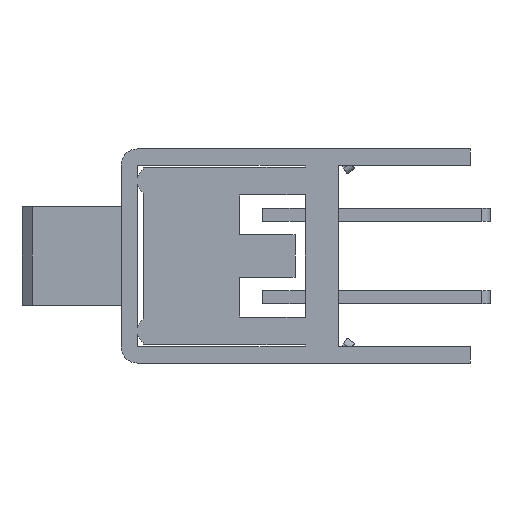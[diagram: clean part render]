
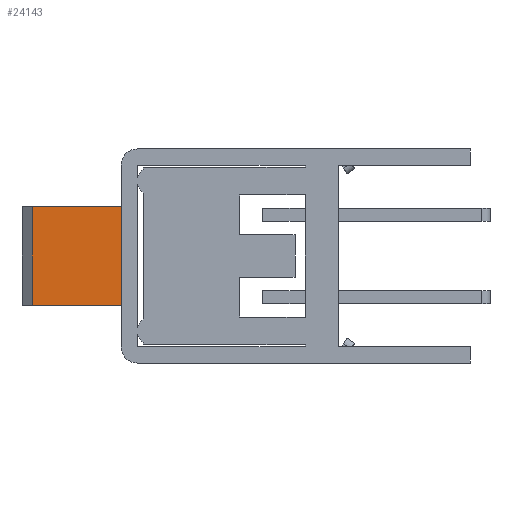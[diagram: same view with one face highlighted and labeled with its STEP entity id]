
A CAD part, left-side view. The second image highlights one B-rep face of the part: STEP entity #24143.
In plain terms, the highlighted planar face has unit normal (-1, 0, 0).
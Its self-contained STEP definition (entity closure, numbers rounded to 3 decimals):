
#23920=DIRECTION('',(0.,1.,0.));
#23921=VECTOR('',#23920,3.2);
#23922=CARTESIAN_POINT('',(-5.65,6.1,-1.5));
#23923=LINE('',#23922,#23921);
#23924=DIRECTION('',(0.,0.,-1.));
#23925=VECTOR('',#23924,3.);
#23926=CARTESIAN_POINT('',(-5.65,6.1,1.5));
#23927=LINE('',#23926,#23925);
#23980=DIRECTION('',(0.,1.,0.));
#23981=VECTOR('',#23980,3.2);
#23982=CARTESIAN_POINT('',(-5.65,6.1,1.5));
#23983=LINE('',#23982,#23981);
#24028=DIRECTION('',(0.,0.,-1.));
#24029=VECTOR('',#24028,3.);
#24030=CARTESIAN_POINT('',(-5.65,9.3,1.5));
#24031=LINE('',#24030,#24029);
#24076=CARTESIAN_POINT('',(-5.65,6.1,-1.5));
#24077=CARTESIAN_POINT('',(-5.65,9.3,-1.5));
#24078=VERTEX_POINT('',#24076);
#24079=VERTEX_POINT('',#24077);
#24080=CARTESIAN_POINT('',(-5.65,9.3,1.5));
#24081=VERTEX_POINT('',#24080);
#24082=CARTESIAN_POINT('',(-5.65,6.1,1.5));
#24083=VERTEX_POINT('',#24082);
#24128=CARTESIAN_POINT('',(-5.65,9.3,-1.5));
#24129=DIRECTION('',(-1.,0.,0.));
#24130=DIRECTION('',(0.,-1.,0.));
#24131=AXIS2_PLACEMENT_3D('',#24128,#24129,#24130);
#24132=PLANE('',#24131);
#24134=ORIENTED_EDGE('',*,*,#24133,.T.);
#24136=ORIENTED_EDGE('',*,*,#24135,.F.);
#24138=ORIENTED_EDGE('',*,*,#24137,.F.);
#24140=ORIENTED_EDGE('',*,*,#24139,.T.);
#24141=EDGE_LOOP('',(#24134,#24136,#24138,#24140));
#24142=FACE_OUTER_BOUND('',#24141,.F.);
#24143=ADVANCED_FACE('',(#24142),#24132,.T.);
#24133=EDGE_CURVE('',#24078,#24079,#23923,.T.);
#24135=EDGE_CURVE('',#24081,#24079,#24031,.T.);
#24137=EDGE_CURVE('',#24083,#24081,#23983,.T.);
#24139=EDGE_CURVE('',#24083,#24078,#23927,.T.);
